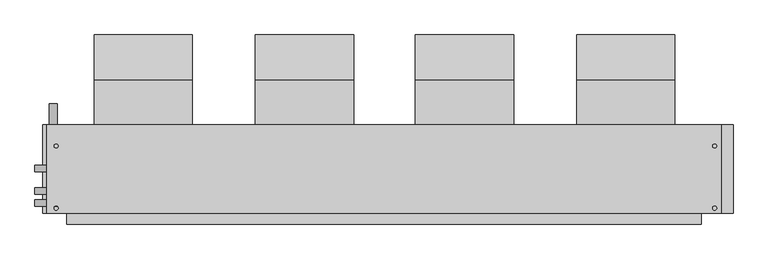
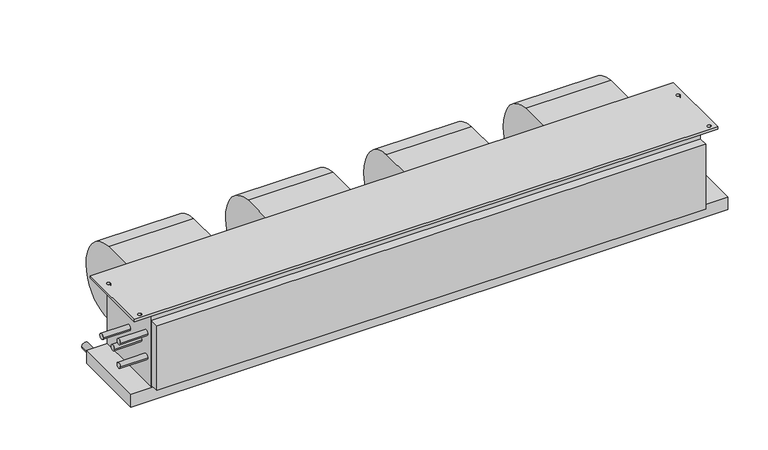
"""IFC4 building model written with IfcOpenShell, lengths in millimetres: proxy geometry, Concealed_Horizontal_Fan_Coil_Unit_-_42CAA_-_CARRIER_-_4-Pipe_LH_2022 : Size 12 - 277v/60Hz/1Ph - 4/1 Coil."""

from ifc_helpers import new_model, si_unit, point, frame, frame_2d, origin, place, context, project, spatial, polyline, circle_curve, trimmed, segment, composite_curve, outline, extrude, source, transform, mapped, element, save


def mechanical_equipment_f4c6fe70(model_context):
    return source(origin(), model_context, "Body", "SweptSolid", [
        extrude(outline(composite_curve([segment(trimmed(circle_curve(frame_2d((-33.198831, -136.0299844)), 117.3559541), [point((-23.8125, -19.05))], [point((84.1375, -138.176))], False, "CARTESIAN"), True, "CONTINUOUS"), segment(trimmed(circle_curve(frame_2d((-11.5977337, -136.4250563)), 95.7512443), [point((84.1375, -138.176))], [point((-23.8125, -231.394))], False, "CARTESIAN"), True, "CONTINUOUS"), segment(trimmed(circle_curve(frame_2d((-11.6288131, -136.6666968)), 95.5076133), [point((-23.8125, -231.394))], [point((-107.1245, -138.176))], False, "CARTESIAN"), True, "CONTINUOUS"), segment(trimmed(circle_curve(frame_2d((-126.2059828, -138.4775816)), 19.0838659), [point((-107.1245, -138.176))], [point((-119.3963373, -120.65))], True, "CARTESIAN"), True, "CONTINUOUS"), segment(polyline([(-119.3963373, -120.65), (-131.7625, -120.65), (-131.7625, -19.05), (-23.8125, -19.05)]), True, "CONTINUOUS")], self_intersect=False)), frame((615.188, 0.0, 0.0), z_axis=(1.0, 0.0, 0.0), x_axis=(0.0, 1.0, 0.0)), (0.0, 0.0, 1.0), 235.712),
        extrude(outline(composite_curve([segment(trimmed(circle_curve(frame_2d((-33.198831, -136.0299844)), 117.3559541), [point((-23.8125, -19.05))], [point((84.1375, -138.176))], False, "CARTESIAN"), True, "CONTINUOUS"), segment(trimmed(circle_curve(frame_2d((-11.5977337, -136.4250563)), 95.7512443), [point((84.1375, -138.176))], [point((-23.8125, -231.394))], False, "CARTESIAN"), True, "CONTINUOUS"), segment(trimmed(circle_curve(frame_2d((-11.6288131, -136.6666968)), 95.5076133), [point((-23.8125, -231.394))], [point((-107.1245, -138.176))], False, "CARTESIAN"), True, "CONTINUOUS"), segment(trimmed(circle_curve(frame_2d((-126.2059828, -138.4775816)), 19.0838659), [point((-107.1245, -138.176))], [point((-119.3963373, -120.65))], True, "CARTESIAN"), True, "CONTINUOUS"), segment(polyline([(-119.3963373, -120.65), (-131.7625, -120.65), (-131.7625, -19.05), (-23.8125, -19.05)]), True, "CONTINUOUS")], self_intersect=False)), frame((-543.687, 0.0, 0.0), z_axis=(1.0, 0.0, 0.0), x_axis=(0.0, 1.0, 0.0)), (0.0, 0.0, 1.0), 235.712),
        extrude(outline(composite_curve([segment(trimmed(circle_curve(frame_2d((-33.198831, -136.0299844)), 117.3559541), [point((-23.8125, -19.05))], [point((84.1375, -138.176))], False, "CARTESIAN"), True, "CONTINUOUS"), segment(trimmed(circle_curve(frame_2d((-11.5977337, -136.4250563)), 95.7512443), [point((84.1375, -138.176))], [point((-23.8125, -231.394))], False, "CARTESIAN"), True, "CONTINUOUS"), segment(trimmed(circle_curve(frame_2d((-11.6288131, -136.6666968)), 95.5076133), [point((-23.8125, -231.394))], [point((-107.1245, -138.176))], False, "CARTESIAN"), True, "CONTINUOUS"), segment(trimmed(circle_curve(frame_2d((-126.2059828, -138.4775816)), 19.0838659), [point((-107.1245, -138.176))], [point((-119.3963373, -120.65))], True, "CARTESIAN"), True, "CONTINUOUS"), segment(polyline([(-119.3963373, -120.65), (-131.7625, -120.65), (-131.7625, -19.05), (-23.8125, -19.05)]), True, "CONTINUOUS")], self_intersect=False)), frame((-156.337, 0.0, 0.0), z_axis=(1.0, 0.0, 0.0), x_axis=(0.0, 1.0, 0.0)), (0.0, 0.0, 1.0), 235.712),
        extrude(outline(composite_curve([segment(trimmed(circle_curve(frame_2d((-33.198831, -136.0299844)), 117.3559541), [point((-23.8125, -19.05))], [point((84.1375, -138.176))], False, "CARTESIAN"), True, "CONTINUOUS"), segment(trimmed(circle_curve(frame_2d((-11.5977337, -136.4250563)), 95.7512443), [point((84.1375, -138.176))], [point((-23.8125, -231.394))], False, "CARTESIAN"), True, "CONTINUOUS"), segment(trimmed(circle_curve(frame_2d((-11.6288131, -136.6666968)), 95.5076133), [point((-23.8125, -231.394))], [point((-107.1245, -138.176))], False, "CARTESIAN"), True, "CONTINUOUS"), segment(trimmed(circle_curve(frame_2d((-126.2059828, -138.4775816)), 19.0838659), [point((-107.1245, -138.176))], [point((-119.3963373, -120.65))], True, "CARTESIAN"), True, "CONTINUOUS"), segment(polyline([(-119.3963373, -120.65), (-131.7625, -120.65), (-131.7625, -19.05), (-23.8125, -19.05)]), True, "CONTINUOUS")], self_intersect=False)), frame((227.838, 0.0, 0.0), z_axis=(1.0, 0.0, 0.0), x_axis=(0.0, 1.0, 0.0)), (0.0, 0.0, 1.0), 235.712),
        extrude(outline(polyline([(962.025, -131.7625), (962.025, -344.4875), (-657.225, -344.4875), (-657.225, -131.7625), (962.025, -131.7625)]), holes=[composite_curve([segment(trimmed(circle_curve(frame_2d((-635.0, -182.5625)), 4.7625), [point((-639.7625, -182.5625))], [point((-630.2375, -182.5625))], True, "CARTESIAN"), True, "CONTINUOUS"), segment(trimmed(circle_curve(frame_2d((-635.0, -182.5625)), 4.7625), [point((-630.2375, -182.5625))], [point((-639.7625, -182.5625))], True, "CARTESIAN"), True, "CONTINUOUS")], self_intersect=False), composite_curve([segment(trimmed(circle_curve(frame_2d((-635.0, -331.7875)), 4.7625), [point((-639.7625, -331.7875))], [point((-630.2375, -331.7875))], True, "CARTESIAN"), True, "CONTINUOUS"), segment(trimmed(circle_curve(frame_2d((-635.0, -331.7875)), 4.7625), [point((-630.2375, -331.7875))], [point((-639.7625, -331.7875))], True, "CARTESIAN"), True, "CONTINUOUS")], self_intersect=False), composite_curve([segment(trimmed(circle_curve(frame_2d((946.15, -182.5625)), 4.7625), [point((941.3875, -182.5625))], [point((950.9125, -182.5625))], True, "CARTESIAN"), True, "CONTINUOUS"), segment(trimmed(circle_curve(frame_2d((946.15, -182.5625)), 4.7625), [point((950.9125, -182.5625))], [point((941.3875, -182.5625))], True, "CARTESIAN"), True, "CONTINUOUS")], self_intersect=False), composite_curve([segment(trimmed(circle_curve(frame_2d((946.15, -331.7875)), 4.7625), [point((941.3875, -331.7875))], [point((950.9125, -331.7875))], True, "CARTESIAN"), True, "CONTINUOUS"), segment(trimmed(circle_curve(frame_2d((946.15, -331.7875)), 4.7625), [point((950.9125, -331.7875))], [point((941.3875, -331.7875))], True, "CARTESIAN"), True, "CONTINUOUS")], self_intersect=False)]), frame((0.0, 0.0, -6.35), z_axis=(0.0, 0.0, 1.0), x_axis=(1.0, 0.0, 0.0)), (0.0, 0.0, 1.0), 6.35),
        extrude(outline(composite_curve([segment(trimmed(circle_curve(frame_2d((-241.3, -641.35)), 9.525), [point((-241.3, -650.875))], [point((-241.3, -631.825))], False, "CARTESIAN"), True, "CONTINUOUS"), segment(trimmed(circle_curve(frame_2d((-241.3, -641.35)), 9.525), [point((-241.3, -631.825))], [point((-241.3, -650.875))], False, "CARTESIAN"), True, "CONTINUOUS")], self_intersect=False)), frame((0.0, -131.7625, 0.0), z_axis=(0.0, 1.0, 0.0), x_axis=(0.0, 0.0, 1.0)), (0.0, 0.0, 1.0), 50.8),
        extrude(outline(polyline([(914.4, -369.8875), (-609.6, -369.8875), (-609.6, -344.4875), (914.4, -344.4875), (914.4, -369.8875)])), frame((0.0, 0.0, -209.55), z_axis=(0.0, 0.0, 1.0), x_axis=(1.0, 0.0, 0.0)), (0.0, 0.0, 1.0), 190.5),
        extrude(outline(polyline([(990.6, -131.7625), (990.6, -344.4875), (-666.75, -344.4875), (-666.75, -131.7625), (990.6, -131.7625)])), frame((0.0, 0.0, -254.0), z_axis=(0.0, 0.0, 1.0), x_axis=(1.0, 0.0, 0.0)), (0.0, 0.0, 1.0), 38.1),
        extrude(outline(composite_curve([segment(trimmed(circle_curve(frame_2d((-236.5375, -104.775)), 7.9375), [point((-228.6, -104.775))], [point((-244.475, -104.775))], False, "CARTESIAN"), True, "CONTINUOUS"), segment(trimmed(circle_curve(frame_2d((-236.5375, -104.775)), 7.9375), [point((-244.475, -104.775))], [point((-228.6, -104.775))], False, "CARTESIAN"), True, "CONTINUOUS")], self_intersect=False)), frame((-685.8, 0.0, 0.0), z_axis=(1.0, 0.0, 0.0), x_axis=(0.0, 1.0, 0.0)), (0.0, 0.0, 1.0), 76.2),
        extrude(outline(composite_curve([segment(trimmed(circle_curve(frame_2d((-290.5125, -104.775)), 7.9375), [point((-282.575, -104.775))], [point((-298.45, -104.775))], False, "CARTESIAN"), True, "CONTINUOUS"), segment(trimmed(circle_curve(frame_2d((-290.5125, -104.775)), 7.9375), [point((-298.45, -104.775))], [point((-282.575, -104.775))], False, "CARTESIAN"), True, "CONTINUOUS")], self_intersect=False)), frame((-685.8, 0.0, 0.0), z_axis=(1.0, 0.0, 0.0), x_axis=(0.0, 1.0, 0.0)), (0.0, 0.0, 1.0), 76.2),
        extrude(outline(composite_curve([segment(trimmed(circle_curve(frame_2d((-319.0875, -69.85)), 7.9375), [point((-311.15, -69.85))], [point((-327.025, -69.85))], False, "CARTESIAN"), True, "CONTINUOUS"), segment(trimmed(circle_curve(frame_2d((-319.0875, -69.85)), 7.9375), [point((-327.025, -69.85))], [point((-311.15, -69.85))], False, "CARTESIAN"), True, "CONTINUOUS")], self_intersect=False)), frame((-685.8, 0.0, 0.0), z_axis=(1.0, 0.0, 0.0), x_axis=(0.0, 1.0, 0.0)), (0.0, 0.0, 1.0), 76.2),
        extrude(outline(composite_curve([segment(trimmed(circle_curve(frame_2d((-319.0875, -139.7)), 7.9375), [point((-311.15, -139.7))], [point((-327.025, -139.7))], False, "CARTESIAN"), True, "CONTINUOUS"), segment(trimmed(circle_curve(frame_2d((-319.0875, -139.7)), 7.9375), [point((-327.025, -139.7))], [point((-311.15, -139.7))], False, "CARTESIAN"), True, "CONTINUOUS")], self_intersect=False)), frame((-685.8, 0.0, 0.0), z_axis=(1.0, 0.0, 0.0), x_axis=(0.0, 1.0, 0.0)), (0.0, 0.0, 1.0), 76.2),
        extrude(outline(polyline([(914.4, -344.4875), (-609.6, -344.4875), (-609.6, -131.7625), (914.4, -131.7625), (914.4, -344.4875)])), frame((0.0, 0.0, -215.9), z_axis=(0.0, 0.0, 1.0), x_axis=(1.0, 0.0, 0.0)), (0.0, 0.0, 1.0), 209.55),
    ])


if __name__ == "__main__":
    model = new_model("IFC4")
    model_context = context("Model", 3, world=origin())
    ifc_project = project(units=[si_unit("LENGTHUNIT", "METRE", prefix="MILLI")], contexts=[model_context])
    site = spatial("IfcSite", under=ifc_project)
    building = spatial("IfcBuilding", under=site)
    placement = place(None, origin())
    mechanical_equipment_shape = mechanical_equipment_f4c6fe70(model_context)
    element("IfcBuildingElementProxy", 1, Name="Concealed_Horizontal_Fan_Coil_Unit_-_42CAA_-_CARRIER_-_4-Pipe_LH_2022 : Size 12 - 277v/60Hz/1Ph - 4/1 Coil", ObjectType="Concealed_Horizontal_Fan_Coil_Unit_-_42CAA_-_CARRIER_-_4-Pipe_LH_2022 : Size 12 - 277v/60Hz/1Ph - 4/1 Coil", at=placement, inside=building, context=model_context, shape_type="MappedRepresentation", body=[
        mapped(mechanical_equipment_shape, transform((0.0, 0.0, 0.0), x_axis=(1.0, 0.0, 0.0), y_axis=(0.0, 1.0, 0.0), z_axis=(0.0, 0.0, 1.0))),
    ])
    save(model, "model.ifc")
